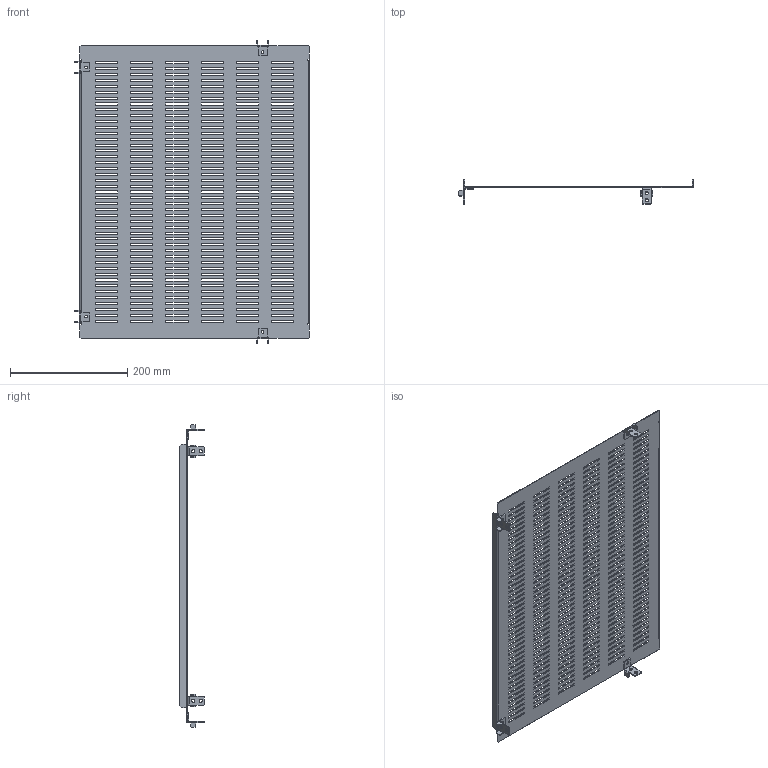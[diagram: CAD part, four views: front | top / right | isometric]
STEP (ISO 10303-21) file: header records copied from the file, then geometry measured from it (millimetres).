
FILE_DESCRIPTION(('CAx-IF Rec.Pracs.---Model Styling and Organization---1.2---2011-12-15','CAx-IF Rec.Pracs.---Geometric and Assembly Validation Properties---4.1---2014-06-16','CAx-IF Rec.Pracs.---PMI Polyline Presentation---2.0---2013-05-24'),'2;1');
FILE_NAME('R5MRBPF635.stp','2021-05-05T13:04:02+03:00',(''),(''),'STEP Interface 4.4 by CT CoreTechnologie','3D_Evolution4.4 by CT CoreTechnologie','');
FILE_SCHEMA(('AUTOMOTIVE_DESIGN { 1 0 10303 214 1 1 1 1 }'));
Length unit declared in the file: millimetre
Products named in the file (3): R5MRBPF635; RB.0886.00.00.0_-01; RB.0521.00.00.0
Assembly tree (5 placements, depth 2):
  R5MRBPF635
    RB.0886.00.00.0_-01
    RB.0521.00.00.0  x4
Bounding box: 400 x 41.5 x 516 mm (x, y, z)
Surface area: 382654.8 mm2 (no closed solid volume)
Topology: 0 solids, 5 shells, 1322 faces, 3888 edges, 2576 vertices
Faces by surface type: plane 1258, cylinder 64
Entity records: 40218 total; most frequent: CARTESIAN_POINT 7066, ORIENTED_EDGE 7056, DIRECTION 5964, EDGE_CURVE 3528, VECTOR 3472, LINE 3472, VERTEX_POINT 2348, EDGE_LOOP 1738
